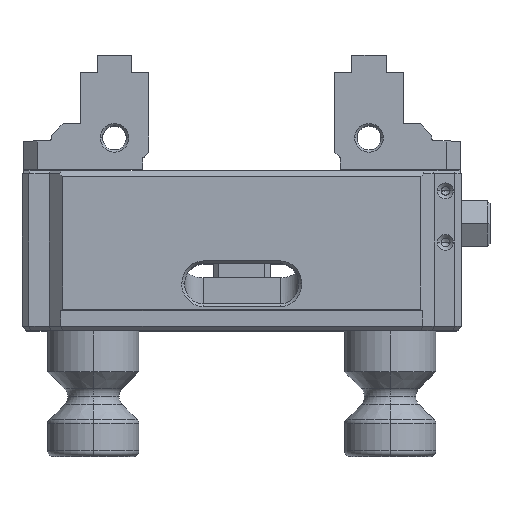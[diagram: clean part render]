
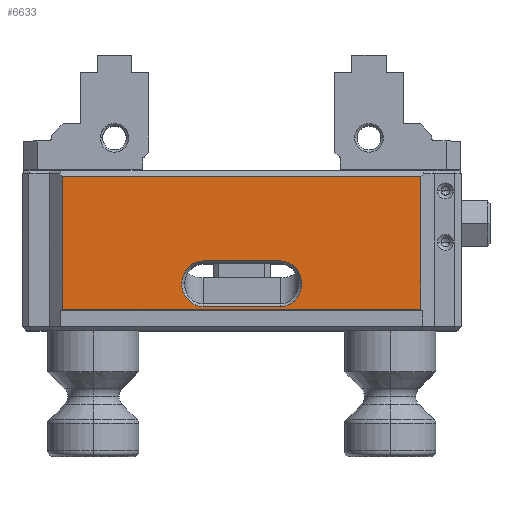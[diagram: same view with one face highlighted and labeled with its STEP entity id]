
A CAD part, top view. The second image highlights one B-rep face of the part: STEP entity #6633.
In plain terms, the highlighted planar face has unit normal (0, 0, 1).
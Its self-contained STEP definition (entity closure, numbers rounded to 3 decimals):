
#93 = DIRECTION ( 'NONE',  ( 1., 0., 0. ) ) ;
#147 = EDGE_LOOP ( 'NONE', ( #7213, #8981, #10447, #7406, #9147, #10051 ) ) ;
#180 = CARTESIAN_POINT ( 'NONE',  ( -38.5, 4.241, 23. ) ) ;
#206 = CARTESIAN_POINT ( 'NONE',  ( -10.029, 10.244, 23. ) ) ;
#227 = VECTOR ( 'NONE', #6086, 1000. ) ;
#273 = ORIENTED_EDGE ( 'NONE', *, *, #3651, .T. ) ;
#291 = CARTESIAN_POINT ( 'NONE',  ( -7.733, 12.122, 23. ) ) ;
#631 = CARTESIAN_POINT ( 'NONE',  ( -10.502, 8.234, 23. ) ) ;
#744 = B_SPLINE_CURVE_WITH_KNOTS ( 'NONE', 3,
 ( #9815, #14990, #7410, #2140, #5991, #13835, #11157, #12488, #7331, #996 ),
 .UNSPECIFIED., .F., .F.,
 ( 4, 2, 2, 2, 4 ),
 ( 0., 0.25, 0.5, 0.75, 1. ),
 .UNSPECIFIED. ) ;
#761 = CARTESIAN_POINT ( 'NONE',  ( 6.75, 4.241, 23. ) ) ;
#807 = VECTOR ( 'NONE', #13656, 1000. ) ;
#904 = CARTESIAN_POINT ( 'NONE',  ( -31.4, 3.8, 23. ) ) ;
#948 = EDGE_CURVE ( 'NONE', #6245, #5924, #744, .T. ) ;
#996 = CARTESIAN_POINT ( 'NONE',  ( -10.502, 8.234, 23. ) ) ;
#1180 = AXIS2_PLACEMENT_3D ( 'NONE', #11322, #14913, #8780 ) ;
#1343 = EDGE_CURVE ( 'NONE', #10056, #11745, #10280, .T. ) ;
#1630 = CARTESIAN_POINT ( 'NONE',  ( -31.4, 27., 23. ) ) ;
#1660 = CARTESIAN_POINT ( 'NONE',  ( -10.404, 9.281, 23. ) ) ;
#1673 = CARTESIAN_POINT ( 'NONE',  ( 31.4, 27., 23. ) ) ;
#2140 = CARTESIAN_POINT ( 'NONE',  ( -8.638, 4.745, 23. ) ) ;
#2209 = B_SPLINE_CURVE_WITH_KNOTS ( 'NONE', 3,
 ( #3546, #7186, #15006, #8635, #16016, #5855, #12353, #12503, #6089, #761 ),
 .UNSPECIFIED., .F., .F.,
 ( 4, 2, 2, 2, 4 ),
 ( 0., 0.25, 0.5, 0.75, 1. ),
 .UNSPECIFIED. ) ;
#2294 = ORIENTED_EDGE ( 'NONE', *, *, #3178, .T. ) ;
#2333 = DIRECTION ( 'NONE',  ( -1., 0., 0. ) ) ;
#2545 = VERTEX_POINT ( 'NONE', #1673 ) ;
#2756 = VERTEX_POINT ( 'NONE', #6852 ) ;
#3111 = EDGE_CURVE ( 'NONE', #2756, #6245, #10423, .T. ) ;
#3178 = EDGE_CURVE ( 'NONE', #4289, #3697, #6345, .T. ) ;
#3206 = CARTESIAN_POINT ( 'NONE',  ( 9.749, 10.689, 23. ) ) ;
#3546 = CARTESIAN_POINT ( 'NONE',  ( 10.502, 8.234, 23. ) ) ;
#3619 = FACE_OUTER_BOUND ( 'NONE', #13301, .T. ) ;
#3651 = EDGE_CURVE ( 'NONE', #3697, #11571, #12958, .T. ) ;
#3697 = VERTEX_POINT ( 'NONE', #904 ) ;
#3712 = FACE_BOUND ( 'NONE', #147, .T. ) ;
#4181 = CARTESIAN_POINT ( 'NONE',  ( -7.242, 12.227, 23. ) ) ;
#4289 = VERTEX_POINT ( 'NONE', #1630 ) ;
#4463 = CARTESIAN_POINT ( 'NONE',  ( 9.057, 11.426, 23. ) ) ;
#4630 = PLANE ( 'NONE',  #1180 ) ;
#5206 = CARTESIAN_POINT ( 'NONE',  ( -10.502, 8.756, 23. ) ) ;
#5624 = CARTESIAN_POINT ( 'NONE',  ( 31.4, 3.8, 23. ) ) ;
#5855 = CARTESIAN_POINT ( 'NONE',  ( 9.057, 5.042, 23. ) ) ;
#5924 = VERTEX_POINT ( 'NONE', #631 ) ;
#5991 = CARTESIAN_POINT ( 'NONE',  ( -9.057, 5.042, 23. ) ) ;
#6022 = LINE ( 'NONE', #13875, #7444 ) ;
#6086 = DIRECTION ( 'NONE',  ( 0., -1., 0. ) ) ;
#6089 = CARTESIAN_POINT ( 'NONE',  ( 7.242, 4.241, 23. ) ) ;
#6245 = VERTEX_POINT ( 'NONE', #7596 ) ;
#6345 = LINE ( 'NONE', #11407, #227 ) ;
#6592 = CARTESIAN_POINT ( 'NONE',  ( 6.75, 12.227, 23. ) ) ;
#6633 = ADVANCED_FACE ( 'NONE', ( #3712, #3619 ), #4630, .F. ) ;
#6727 = CARTESIAN_POINT ( 'NONE',  ( -10.502, 8.234, 23. ) ) ;
#6852 = CARTESIAN_POINT ( 'NONE',  ( 6.75, 4.241, 23. ) ) ;
#7001 = CARTESIAN_POINT ( 'NONE',  ( 10.404, 9.281, 23. ) ) ;
#7186 = CARTESIAN_POINT ( 'NONE',  ( 10.502, 7.712, 23. ) ) ;
#7213 = ORIENTED_EDGE ( 'NONE', *, *, #14383, .T. ) ;
#7331 = CARTESIAN_POINT ( 'NONE',  ( -10.502, 7.711, 23. ) ) ;
#7406 = ORIENTED_EDGE ( 'NONE', *, *, #8611, .T. ) ;
#7410 = CARTESIAN_POINT ( 'NONE',  ( -7.733, 4.346, 23. ) ) ;
#7444 = VECTOR ( 'NONE', #2333, 1000. ) ;
#7596 = CARTESIAN_POINT ( 'NONE',  ( -6.75, 4.241, 23. ) ) ;
#8611 = EDGE_CURVE ( 'NONE', #9002, #2756, #2209, .T. ) ;
#8635 = CARTESIAN_POINT ( 'NONE',  ( 10.029, 6.225, 23. ) ) ;
#8780 = DIRECTION ( 'NONE',  ( -1., 0., 0. ) ) ;
#8854 = ORIENTED_EDGE ( 'NONE', *, *, #9657, .T. ) ;
#8867 = EDGE_CURVE ( 'NONE', #11745, #9002, #14836, .T. ) ;
#8981 = ORIENTED_EDGE ( 'NONE', *, *, #1343, .T. ) ;
#9002 = VERTEX_POINT ( 'NONE', #11233 ) ;
#9147 = ORIENTED_EDGE ( 'NONE', *, *, #3111, .T. ) ;
#9250 = DIRECTION ( 'NONE',  ( -1., 0., 0. ) ) ;
#9359 = CARTESIAN_POINT ( 'NONE',  ( -6.75, 12.227, 23. ) ) ;
#9657 = EDGE_CURVE ( 'NONE', #2545, #4289, #6022, .T. ) ;
#9796 = LINE ( 'NONE', #10984, #807 ) ;
#9810 = CARTESIAN_POINT ( 'NONE',  ( 10.029, 10.244, 23. ) ) ;
#9815 = CARTESIAN_POINT ( 'NONE',  ( -6.75, 4.241, 23. ) ) ;
#10051 = ORIENTED_EDGE ( 'NONE', *, *, #948, .T. ) ;
#10056 = VERTEX_POINT ( 'NONE', #11551 ) ;
#10280 = LINE ( 'NONE', #11714, #13471 ) ;
#10419 = CARTESIAN_POINT ( 'NONE',  ( -38.5, 3.8, 23. ) ) ;
#10423 = LINE ( 'NONE', #180, #13304 ) ;
#10447 = ORIENTED_EDGE ( 'NONE', *, *, #8867, .T. ) ;
#10535 = CARTESIAN_POINT ( 'NONE',  ( -9.749, 10.689, 23. ) ) ;
#10980 = VECTOR ( 'NONE', #12695, 1000. ) ;
#10984 = CARTESIAN_POINT ( 'NONE',  ( 31.4, 28., 23. ) ) ;
#11004 = CARTESIAN_POINT ( 'NONE',  ( 7.733, 12.122, 23. ) ) ;
#11157 = CARTESIAN_POINT ( 'NONE',  ( -10.029, 6.225, 23. ) ) ;
#11233 = CARTESIAN_POINT ( 'NONE',  ( 10.502, 8.234, 23. ) ) ;
#11322 = CARTESIAN_POINT ( 'NONE',  ( -38.5, 28., 23. ) ) ;
#11407 = CARTESIAN_POINT ( 'NONE',  ( -31.4, 28., 23. ) ) ;
#11409 = CARTESIAN_POINT ( 'NONE',  ( 6.75, 12.227, 23. ) ) ;
#11551 = CARTESIAN_POINT ( 'NONE',  ( -6.75, 12.227, 23. ) ) ;
#11571 = VERTEX_POINT ( 'NONE', #5624 ) ;
#11714 = CARTESIAN_POINT ( 'NONE',  ( -38.5, 12.227, 23. ) ) ;
#11745 = VERTEX_POINT ( 'NONE', #11409 ) ;
#11891 = CARTESIAN_POINT ( 'NONE',  ( -8.638, 11.723, 23. ) ) ;
#12074 = B_SPLINE_CURVE_WITH_KNOTS ( 'NONE', 3,
 ( #6727, #5206, #1660, #206, #10535, #15620, #11891, #291, #4181, #9359 ),
 .UNSPECIFIED., .F., .F.,
 ( 4, 2, 2, 2, 4 ),
 ( 0., 0.25, 0.5, 0.75, 1. ),
 .UNSPECIFIED. ) ;
#12166 = CARTESIAN_POINT ( 'NONE',  ( 7.24, 12.227, 23. ) ) ;
#12353 = CARTESIAN_POINT ( 'NONE',  ( 8.638, 4.745, 23. ) ) ;
#12488 = CARTESIAN_POINT ( 'NONE',  ( -10.404, 7.188, 23. ) ) ;
#12503 = CARTESIAN_POINT ( 'NONE',  ( 7.733, 4.346, 23. ) ) ;
#12695 = DIRECTION ( 'NONE',  ( 1., 0., 0. ) ) ;
#12958 = LINE ( 'NONE', #10419, #10980 ) ;
#13053 = EDGE_CURVE ( 'NONE', #2545, #11571, #9796, .T. ) ;
#13301 = EDGE_LOOP ( 'NONE', ( #14927, #8854, #2294, #273 ) ) ;
#13304 = VECTOR ( 'NONE', #9250, 1000. ) ;
#13471 = VECTOR ( 'NONE', #93, 1000. ) ;
#13506 = CARTESIAN_POINT ( 'NONE',  ( 10.502, 8.234, 23. ) ) ;
#13656 = DIRECTION ( 'NONE',  ( 0., -1., 0. ) ) ;
#13835 = CARTESIAN_POINT ( 'NONE',  ( -9.749, 5.779, 23. ) ) ;
#13875 = CARTESIAN_POINT ( 'NONE',  ( -38.5, 27., 23. ) ) ;
#14383 = EDGE_CURVE ( 'NONE', #5924, #10056, #12074, .T. ) ;
#14836 = B_SPLINE_CURVE_WITH_KNOTS ( 'NONE', 3,
 ( #6592, #12166, #11004, #14906, #4463, #3206, #9810, #7001, #16082, #13506 ),
 .UNSPECIFIED., .F., .F.,
 ( 4, 2, 2, 2, 4 ),
 ( 0., 0.25, 0.5, 0.75, 1. ),
 .UNSPECIFIED. ) ;
#14906 = CARTESIAN_POINT ( 'NONE',  ( 8.638, 11.724, 23. ) ) ;
#14913 = DIRECTION ( 'NONE',  ( 0., 0., -1. ) ) ;
#14927 = ORIENTED_EDGE ( 'NONE', *, *, #13053, .F. ) ;
#14990 = CARTESIAN_POINT ( 'NONE',  ( -7.24, 4.241, 23. ) ) ;
#15006 = CARTESIAN_POINT ( 'NONE',  ( 10.404, 7.188, 23. ) ) ;
#15620 = CARTESIAN_POINT ( 'NONE',  ( -9.057, 11.426, 23. ) ) ;
#16016 = CARTESIAN_POINT ( 'NONE',  ( 9.749, 5.779, 23. ) ) ;
#16082 = CARTESIAN_POINT ( 'NONE',  ( 10.502, 8.757, 23. ) ) ;
